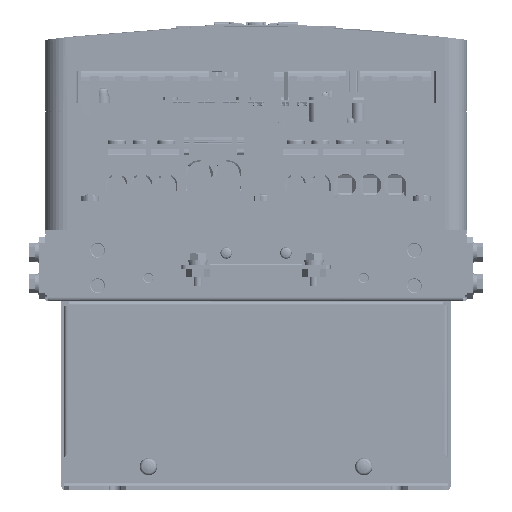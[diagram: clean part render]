
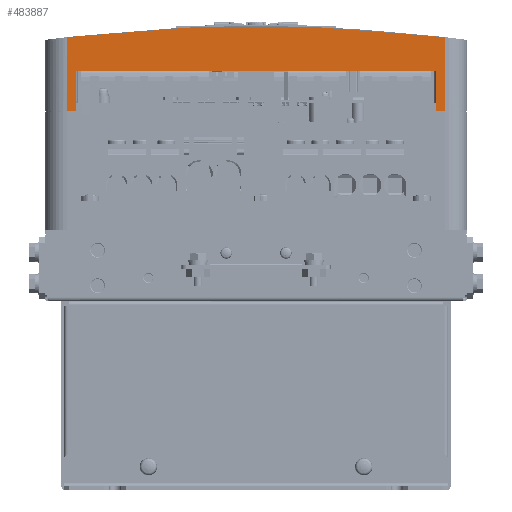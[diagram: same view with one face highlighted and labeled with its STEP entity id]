
A CAD part, front view. The second image highlights one B-rep face of the part: STEP entity #483887.
In plain terms, the highlighted planar face has unit normal (0, -1, 0).
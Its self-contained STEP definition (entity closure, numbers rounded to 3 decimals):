
#469981=DIRECTION('',(1.,0.,0.));
#469982=VECTOR('',#469981,5.4);
#469983=CARTESIAN_POINT('',(13.5,21.,244.5));
#469984=LINE('',#469983,#469982);
#469985=DIRECTION('',(0.,0.,-1.));
#469986=VECTOR('',#469985,44.847);
#469987=CARTESIAN_POINT('',(13.5,21.,289.347));
#469988=LINE('',#469987,#469986);
#469989=CARTESIAN_POINT('',(127.5,21.,-684.));
#469990=DIRECTION('',(0.,1.,0.));
#469991=DIRECTION('',(-0.116,0.,0.993));
#469992=AXIS2_PLACEMENT_3D('',#469989,#469990,#469991);
#469994=DIRECTION('',(0.,0.,-1.));
#469995=VECTOR('',#469994,44.847);
#469996=CARTESIAN_POINT('',(241.5,21.,289.347));
#469997=LINE('',#469996,#469995);
#469998=DIRECTION('',(-1.,0.,0.));
#469999=VECTOR('',#469998,5.4);
#470000=CARTESIAN_POINT('',(241.5,21.,244.5));
#470001=LINE('',#470000,#469999);
#470002=DIRECTION('',(0.,0.,1.));
#470003=VECTOR('',#470002,24.5);
#470004=CARTESIAN_POINT('',(236.1,21.,244.5));
#470005=LINE('',#470004,#470003);
#470006=DIRECTION('',(-1.,0.,0.));
#470007=VECTOR('',#470006,217.2);
#470008=CARTESIAN_POINT('',(236.1,21.,269.));
#470009=LINE('',#470008,#470007);
#470010=DIRECTION('',(0.,0.,1.));
#470011=VECTOR('',#470010,24.5);
#470012=CARTESIAN_POINT('',(18.9,21.,244.5));
#470013=LINE('',#470012,#470011);
#470037=CARTESIAN_POINT('',(241.5,21.,289.347));
#470071=CARTESIAN_POINT('',(13.5,21.,289.347));
#479525=CARTESIAN_POINT('',(236.1,21.,269.));
#479526=CARTESIAN_POINT('',(18.9,21.,269.));
#479527=VERTEX_POINT('',#479525);
#479528=VERTEX_POINT('',#479526);
#480143=CARTESIAN_POINT('',(236.1,21.,244.5));
#480145=VERTEX_POINT('',#480143);
#480215=CARTESIAN_POINT('',(18.9,21.,244.5));
#480217=VERTEX_POINT('',#480215);
#481116=VERTEX_POINT('',#470037);
#481119=VERTEX_POINT('',#470071);
#481132=CARTESIAN_POINT('',(241.5,21.,244.5));
#481133=VERTEX_POINT('',#481132);
#481136=CARTESIAN_POINT('',(13.5,21.,244.5));
#481137=VERTEX_POINT('',#481136);
#483867=CARTESIAN_POINT('',(0.,21.,296.));
#483868=DIRECTION('',(0.,-1.,0.));
#483869=DIRECTION('',(1.,0.,0.));
#483870=AXIS2_PLACEMENT_3D('',#483867,#483868,#483869);
#483871=PLANE('',#483870);
#483872=ORIENTED_EDGE('',*,*,#483486,.F.);
#483874=ORIENTED_EDGE('',*,*,#483873,.F.);
#483876=ORIENTED_EDGE('',*,*,#483875,.T.);
#483877=ORIENTED_EDGE('',*,*,#483852,.T.);
#483878=ORIENTED_EDGE('',*,*,#483516,.T.);
#483880=ORIENTED_EDGE('',*,*,#483879,.T.);
#483882=ORIENTED_EDGE('',*,*,#483881,.T.);
#483884=ORIENTED_EDGE('',*,*,#483883,.F.);
#483885=EDGE_LOOP('',(#483872,#483874,#483876,#483877,#483878,#483880,#483882,
#483884));
#483886=FACE_OUTER_BOUND('',#483885,.F.);
#469993=CIRCLE('',#469992,980.);
#483486=EDGE_CURVE('',#481137,#480217,#469984,.T.);
#483516=EDGE_CURVE('',#481133,#480145,#470001,.T.);
#483852=EDGE_CURVE('',#481116,#481133,#469997,.T.);
#483873=EDGE_CURVE('',#481119,#481137,#469988,.T.);
#483875=EDGE_CURVE('',#481119,#481116,#469993,.T.);
#483879=EDGE_CURVE('',#480145,#479527,#470005,.T.);
#483881=EDGE_CURVE('',#479527,#479528,#470009,.T.);
#483883=EDGE_CURVE('',#480217,#479528,#470013,.T.);
#483887=ADVANCED_FACE('',(#483886),#483871,.T.);
